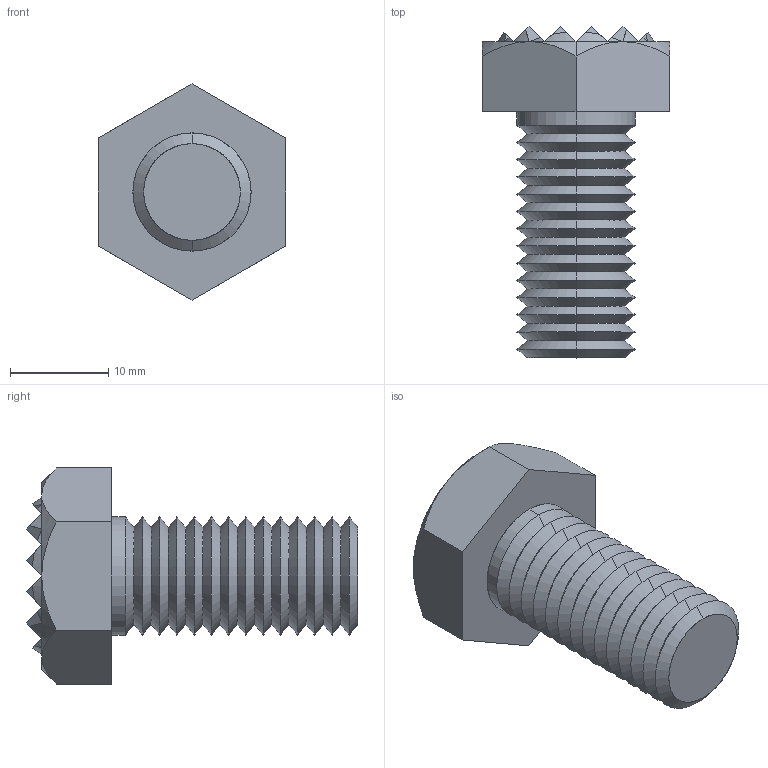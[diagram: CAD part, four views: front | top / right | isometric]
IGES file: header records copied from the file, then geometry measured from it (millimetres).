
Start section: SolidWorks IGES file using analytic representation for surfaces
Global section: file name: C:\Documents and Settings\IANO\Desktop\Temp File\Process pending\NEW\35400_v2\35400_v2_20170704_IGES\35400.W0009.igs; native system: SolidWorks 2009; preprocessor: SolidWorks 2009; author: IANO; date: 170703.082149; units: millimetre
Bounding box: 19 x 33.7 x 21.94 mm (x, y, z)
Surface area: 2472.5 mm2 (no closed solid volume)
Topology: 0 solids, 0 shells, 196 faces, 909 edges, 909 vertices
Faces by surface type: bspline 113, revolution 83
